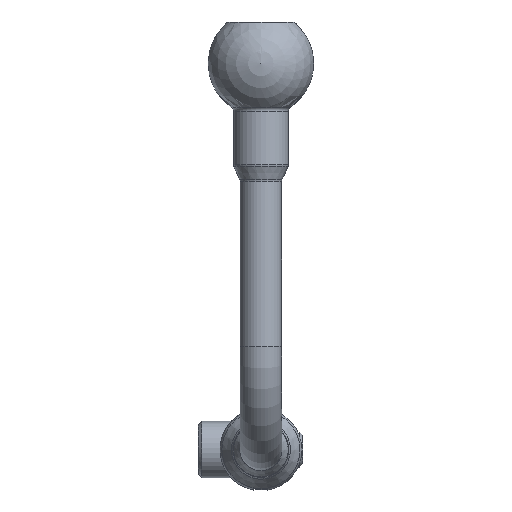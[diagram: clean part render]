
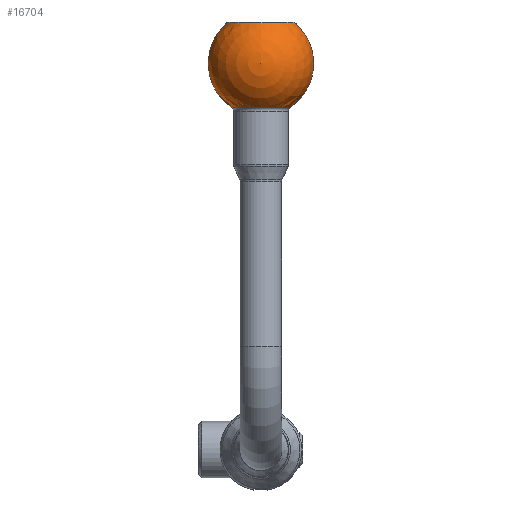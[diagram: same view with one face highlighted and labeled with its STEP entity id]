
A CAD part, left-side view. The second image highlights one B-rep face of the part: STEP entity #16704.
In plain terms, the highlighted spherical face has radius 12.186 mm.
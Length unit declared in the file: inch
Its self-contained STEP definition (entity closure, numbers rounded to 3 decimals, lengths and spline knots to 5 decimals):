
#33=SPHERICAL_SURFACE('',#17725,0.47975);
#203=FACE_BOUND('',#2789,.T.);
#1795=FACE_OUTER_BOUND('',#2788,.T.);
#2788=EDGE_LOOP('',(#15044,#15045,#15046,#15047,#15048,#15049,#15050));
#2789=EDGE_LOOP('',(#15051,#15052));
#4068=CIRCLE('',#17721,0.30778);
#4069=CIRCLE('',#17722,0.30778);
#4070=CIRCLE('',#17723,0.30778);
#4072=CIRCLE('',#17726,0.47975);
#4073=CIRCLE('',#17727,0.47975);
#4074=CIRCLE('',#17728,0.26399);
#4075=CIRCLE('',#17729,0.26399);
#7980=VERTEX_POINT('',#36356);
#7981=VERTEX_POINT('',#36357);
#7982=VERTEX_POINT('',#36359);
#7983=VERTEX_POINT('',#36364);
#7984=VERTEX_POINT('',#36366);
#7985=VERTEX_POINT('',#36368);
#7986=VERTEX_POINT('',#36369);
#10379=EDGE_CURVE('',#7980,#7981,#4068,.T.);
#10380=EDGE_CURVE('',#7982,#7980,#4069,.T.);
#10381=EDGE_CURVE('',#7981,#7982,#4070,.T.);
#10383=EDGE_CURVE('',#7983,#7981,#4072,.T.);
#10384=EDGE_CURVE('',#7982,#7984,#4073,.T.);
#10385=EDGE_CURVE('',#7985,#7986,#4074,.T.);
#10386=EDGE_CURVE('',#7986,#7985,#4075,.T.);
#15044=ORIENTED_EDGE('',*,*,#10379,.T.);
#15045=ORIENTED_EDGE('',*,*,#10383,.F.);
#15046=ORIENTED_EDGE('',*,*,#10383,.T.);
#15047=ORIENTED_EDGE('',*,*,#10381,.T.);
#15048=ORIENTED_EDGE('',*,*,#10384,.T.);
#15049=ORIENTED_EDGE('',*,*,#10384,.F.);
#15050=ORIENTED_EDGE('',*,*,#10380,.T.);
#15051=ORIENTED_EDGE('',*,*,#10385,.F.);
#15052=ORIENTED_EDGE('',*,*,#10386,.F.);
#16704=ADVANCED_FACE('',(#1795,#203),#33,.T.);
#17721=AXIS2_PLACEMENT_3D('',#36358,#20635,#20636);
#17722=AXIS2_PLACEMENT_3D('',#36360,#20637,#20638);
#17723=AXIS2_PLACEMENT_3D('',#36361,#20639,#20640);
#17725=AXIS2_PLACEMENT_3D('',#36363,#20643,#20644);
#17726=AXIS2_PLACEMENT_3D('',#36365,#20645,#20646);
#17727=AXIS2_PLACEMENT_3D('',#36367,#20647,#20648);
#17728=AXIS2_PLACEMENT_3D('',#36370,#20649,#20650);
#17729=AXIS2_PLACEMENT_3D('',#36371,#20651,#20652);
#20635=DIRECTION('center_axis',(0.,0.,-1.));
#20636=DIRECTION('ref_axis',(-1.,0.,0.));
#20637=DIRECTION('center_axis',(0.,0.,-1.));
#20638=DIRECTION('ref_axis',(-1.,0.,0.));
#20639=DIRECTION('center_axis',(0.,0.,-1.));
#20640=DIRECTION('ref_axis',(-1.,0.,0.));
#20643=DIRECTION('center_axis',(1.,0.,0.));
#20644=DIRECTION('ref_axis',(0.,0.,-1.));
#20645=DIRECTION('center_axis',(0.,-1.,0.));
#20646=DIRECTION('ref_axis',(0.,0.,1.));
#20647=DIRECTION('center_axis',(0.,-1.,0.));
#20648=DIRECTION('ref_axis',(0.,0.,1.));
#20649=DIRECTION('center_axis',(0.,0.,-1.));
#20650=DIRECTION('ref_axis',(-1.,0.,0.));
#20651=DIRECTION('center_axis',(0.,0.,-1.));
#20652=DIRECTION('ref_axis',(-1.,0.,0.));
#36356=CARTESIAN_POINT('',(3.48319,0.30778,3.86046));
#36357=CARTESIAN_POINT('',(3.79097,0.,3.86046));
#36358=CARTESIAN_POINT('Origin',(3.48319,0.,
3.86046));
#36359=CARTESIAN_POINT('',(3.17542,0.,3.86046));
#36360=CARTESIAN_POINT('Origin',(3.48319,0.,
3.86046));
#36361=CARTESIAN_POINT('Origin',(3.48319,0.,
3.86046));
#36363=CARTESIAN_POINT('Origin',(3.48319,0.,
3.49245));
#36364=CARTESIAN_POINT('',(3.96294,0.,3.49245));
#36365=CARTESIAN_POINT('Origin',(3.48319,0.,
3.49245));
#36366=CARTESIAN_POINT('',(3.00344,0.,3.49245));
#36367=CARTESIAN_POINT('Origin',(3.48319,0.,
3.49245));
#36368=CARTESIAN_POINT('',(3.48319,0.26399,3.09186));
#36369=CARTESIAN_POINT('',(3.74718,0.,3.09186));
#36370=CARTESIAN_POINT('Origin',(3.48319,0.,
3.09186));
#36371=CARTESIAN_POINT('Origin',(3.48319,0.,
3.09186));
